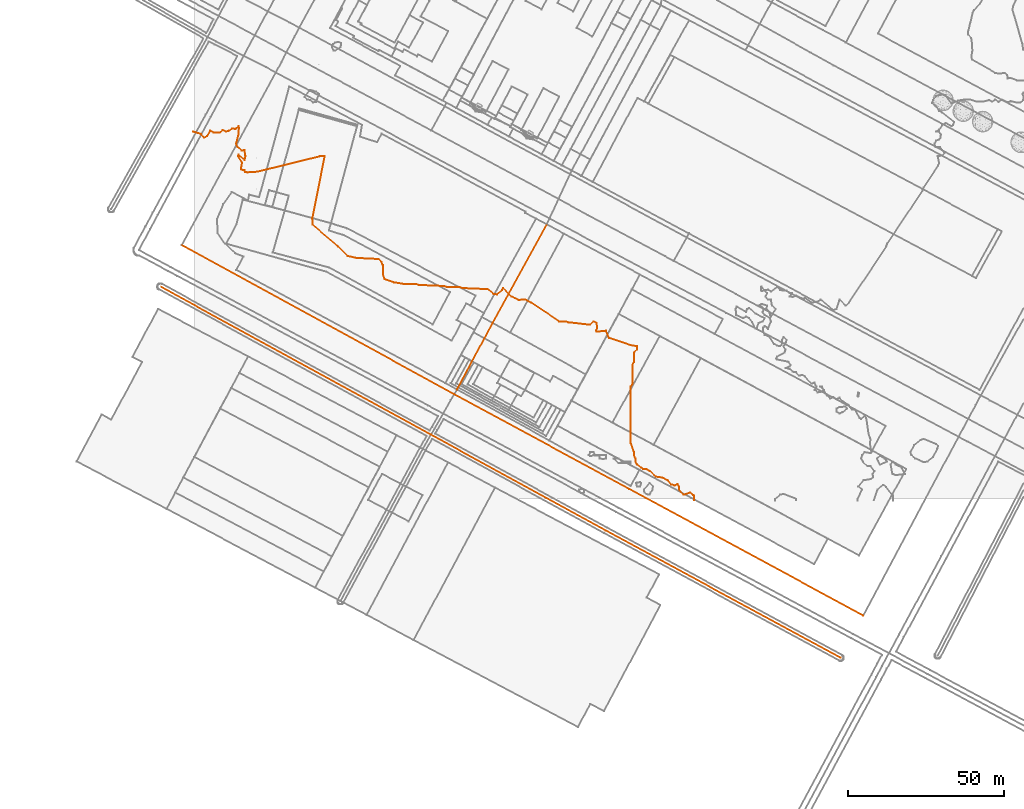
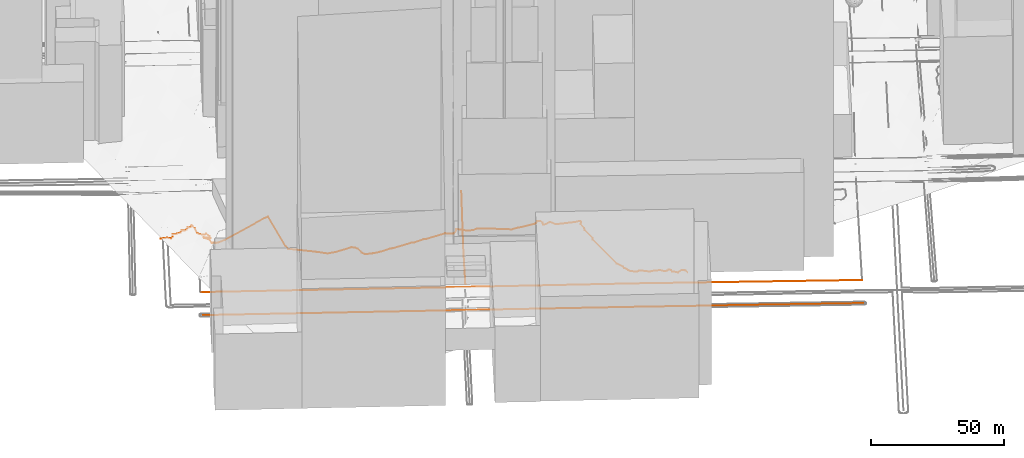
# Not in any storey, part 51 of 80: 3 civil elements, 1 geographic element.
"""IFC4 model written with IfcOpenShell, lengths in metres."""

from ifc_helpers import new_model, entity, si_unit, frame, origin_with_axes, place, context, subcontext, project, spatial, element, save


model = new_model("IFC4")

# Units and contexts
model_context = context("Model", 3, precision=1e-05, world=origin_with_axes())
body_context = subcontext(model_context, "Body", "Model", "MODEL_VIEW")
ifc_project = project(units=[si_unit("AREAUNIT", "SQUARE_METRE"), si_unit("LENGTHUNIT", "METRE")], contexts=[model_context])

# Sites
site_1_placement = place(None, origin_with_axes())
site_1 = spatial("IfcSite", under=ifc_project, at=site_1_placement, Name="Topoexport Site")
site_2_placement = place(site_1_placement, origin_with_axes())
site_2 = spatial("IfcSite", under=site_1, at=site_2_placement, Name="TPX_ROUTES")

# Civil elements
civil_element_1_placement = place(site_2_placement, frame((-3.9679061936, 81.5333067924, 18.7696583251), z_axis=(0.0, 0.0, 1.0), x_axis=(1.0, 0.0, 0.0)))
element("IfcCivilElement", 1, at=civil_element_1_placement, inside=site_2, Name="Route 54", ObjectType="ROAD", context=body_context, shape_type="GeometricCurveSet", body=[
    entity("IfcGeometricCurveSet", [entity("IfcIndexedPolyCurve", entity("IfcCartesianPointList3D", [[0.0, 0.0, 0.0], [87.4628549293, -47.9125309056, 0.8122680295], [143.5901452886, -78.3024847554, 1.2194117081], [218.7889416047, -118.9507915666, 1.1084000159]]))]),
])
civil_element_2_placement = place(site_2_placement, frame((84.3719871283, 35.1519677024, 19.5977278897), z_axis=(0.0, 0.0, 1.0), x_axis=(1.0, 0.0, 0.0)))
element("IfcCivilElement", 2, at=civil_element_2_placement, inside=site_2, Name="Route 118", ObjectType="ROAD", context=body_context, shape_type="GeometricCurveSet", body=[
    entity("IfcGeometricCurveSet", [entity("IfcIndexedPolyCurve", entity("IfcCartesianPointList3D", [[28.7956528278, 52.959085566, 1.1372752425], [11.4182103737, 21.371195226, 0.1774906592], [0.0, 0.0, 0.0]]))]),
])
civil_element_3_placement = place(site_2_placement, frame((-10.8279564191, 68.1754489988, 18.6991640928), z_axis=(0.0, 0.0, 1.0), x_axis=(1.0, 0.0, 0.0)))
element("IfcCivilElement", 3, at=civil_element_3_placement, inside=site_2, Name="Route 122", ObjectType="ROAD", context=body_context, shape_type="GeometricCurveSet", body=[
    entity("IfcGeometricCurveSet", [entity("IfcIndexedPolyCurve", entity("IfcCartesianPointList3D", [[0.0, 0.0, 0.0], [86.8341082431, -47.553539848, 0.7758298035], [142.9314404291, -78.2658649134, 1.2513010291], [218.3356117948, -119.1450089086, 1.3170135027]]))]),
])

# Site
site_3_placement = place(site_1_placement, origin_with_axes())
site_3 = spatial("IfcSite", under=site_1, at=site_3_placement, Name="TPX_CONTOURS")

# Geographic element
geographic_element_placement = place(site_3_placement, frame((-0.3084972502, 117.9198558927, 20.0), z_axis=(0.0, 0.0, 1.0), x_axis=(1.0, 0.0, 0.0)))
element("IfcGeographicElement", 4, at=geographic_element_placement, inside=site_3, Name="Contour 20.0 m", PredefinedType="NOTDEFINED", context=body_context, shape_type="GeometricCurveSet", body=[
    entity("IfcGeometricCurveSet", [entity("IfcIndexedPolyCurve", entity("IfcCartesianPointList3D", [[160.7501430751, -118.3751445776, 0.0], [160.7501013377, -116.8751445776, 0.0], [160.5, -116.5893018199, 0.0], [159.5, -115.8750597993, 0.0], [157.5, -116.5414509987, 0.0], [156.000262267, -114.8751445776, 0.0], [156.0000476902, -113.8751445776, 0.0], [155.5, -113.1251207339, 0.0], [154.5, -113.5416734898, 0.0], [153.5, -113.2081282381, 0.0], [152.5, -111.974984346, 0.0], [150.5, -111.0416787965, 0.0], [148.5, -110.7321317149, 0.0], [146.5002179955, -108.8751445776, 0.0], [145.5, -108.3036420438, 0.0], [144.5, -108.3035602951, 0.0], [143.7502622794, -107.8751445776, 0.0], [142.5002860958, -106.8751445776, 0.0], [141.9999976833, -105.8751445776, 0.0], [141.9999976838, -104.8751445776, 0.0], [141.5001907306, -103.8751445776, 0.0], [141.5000635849, -102.8751445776, 0.0], [140.5002860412, -99.8751445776, 0.0], [140.5001907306, -81.8751445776, 0.0], [140.9999976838, -80.8751445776, 0.0], [141.0000953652, -74.8751445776, 0.0], [141.4999000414, -73.8751445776, 0.0], [141.5000953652, -70.8751445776, 0.0], [142.4998093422, -69.8751445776, 0.0], [142.5001906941, -68.8751445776, 0.0], [140.5, -68.5416628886, 0.0], [133.5, -66.208244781, 0.0], [132.5, -63.8752445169, 0.0], [129.5, -64.2081176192, 0.0], [129.3572830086, -63.8751445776, 0.0], [129.7000686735, -62.8751445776, 0.0], [129.5, -61.3750015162, 0.0], [128.5, -60.8752399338, 0.0], [127.5, -61.8749538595, 0.0], [126.5, -61.8750174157, 0.0], [120.5, -61.2083083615, 0.0], [119.5, -60.8750809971, 0.0], [117.5, -60.8747631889, 0.0], [108.5003814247, -54.8751445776, 0.0], [106.5, -53.8750301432, 0.0], [104.5, -53.9999657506, 0.0], [102.1670481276, -52.8751445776, 0.0], [99.5, -50.1252935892, 0.0], [99.1470383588, -50.8751445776, 0.0], [97.5, -52.2321589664, 0.0], [96.5, -52.0749309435, 0.0], [94.5, -50.54172647, 0.0], [86.5, -50.2083083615, 0.0], [85.5, -49.8750809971, 0.0], [81.5, -49.8748585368, 0.0], [80.5, -49.54172647, 0.0], [72.5, -49.2083083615, 0.0], [71.5, -48.8750809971, 0.0], [67.5, -48.8748585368, 0.0], [64.5, -48.3749061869, 0.0], [61.5, -47.3748107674, 0.0], [61.0001271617, -45.8751445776, 0.0], [60.9000915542, -42.8751445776, 0.0], [60.5, -41.8748584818, 0.0], [59.5001907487, -40.8751445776, 0.0], [52.5, -40.5416417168, 0.0], [49.5, -39.8748902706, 0.0], [46.5, -36.8749538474, 0.0], [38.3002441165, -29.8751445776, 0.0], [38.2501033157, -27.8751445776, 0.0], [42.227293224, -7.8751445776, 0.0], [40.7727193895, -7.8751445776, 0.0], [20.5, -12.842240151, 0.0], [17.5, -13.0464224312, 0.0], [16.6429895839, -12.8751445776, 0.0], [16.5, -12.375049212, 0.0], [15.5, -12.2081599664, 0.0], [15.3335187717, -11.8751445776, 0.0], [15.7002059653, -9.8751445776, 0.0], [14.4168163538, -7.8751445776, 0.0], [14.5, -7.3757172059, 0.0], [16.5, -9.0749843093, 0.0], [16.7631452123, -7.8751445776, 0.0], [16.5, -5.8750492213, 0.0], [15.5, -6.0416575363, 0.0], [14.3002136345, -4.8751445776, 0.0], [13.7728644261, -3.8751445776, 0.0], [14.5000635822, -0.8751445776, 0.0], [14.6999580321, 1.1248554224, 0.0], [14.5, 1.7913949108, 0.0], [13.9999522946, 1.1248554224, 0.0], [13.5, 0.9027415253, 0.0], [12.5, 1.0339542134, 0.0], [11.5, 0.2915724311, 0.0], [10.5, 0.0139020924, 0.0], [9.5, 0.5533918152, 0.0], [8.5, -0.275068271, 0.0], [6.5, -0.2082236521, 0.0], [5.5, 0.3748077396, 0.0], [4.5, -1.3751468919, 0.0], [3.5, -1.8749776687, 0.0], [2.5, -0.7321901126, 0.0], [0.0, 0.0, 0.0]]))]),
])

save(model, "model.ifc")
